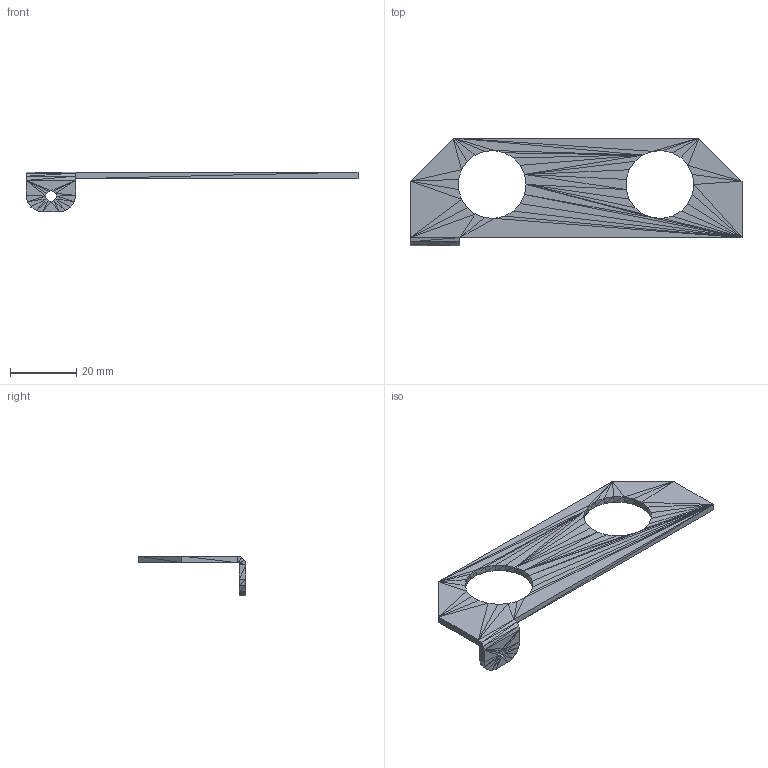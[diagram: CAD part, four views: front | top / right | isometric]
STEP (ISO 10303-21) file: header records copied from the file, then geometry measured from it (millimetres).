
FILE_DESCRIPTION((''),'2;1');
FILE_NAME('051163', '2026-07-23T09:10:11', (''), (''), 'ImageToStl.com STEP Converter','', '');
FILE_SCHEMA(('AUTOMOTIVE_DESIGN_CC2'));
Length unit declared in the file: metre
Products named in the file (1): product0
Bounding box: 100 x 32.5 x 12 mm (x, y, z)
Surface area: 5481 mm2 (no closed solid volume)
Topology: 0 solids, 320 shells, 320 faces, 960 edges, 156 vertices
Faces by surface type: plane 320
Entity records: 7380 total; most frequent: DIRECTION 1602, ORIENTED_EDGE 960, EDGE_CURVE 960, LINE 960, VECTOR 960, AXIS2_PLACEMENT_3D 321, FACE_SURFACE 320, PLANE 320
